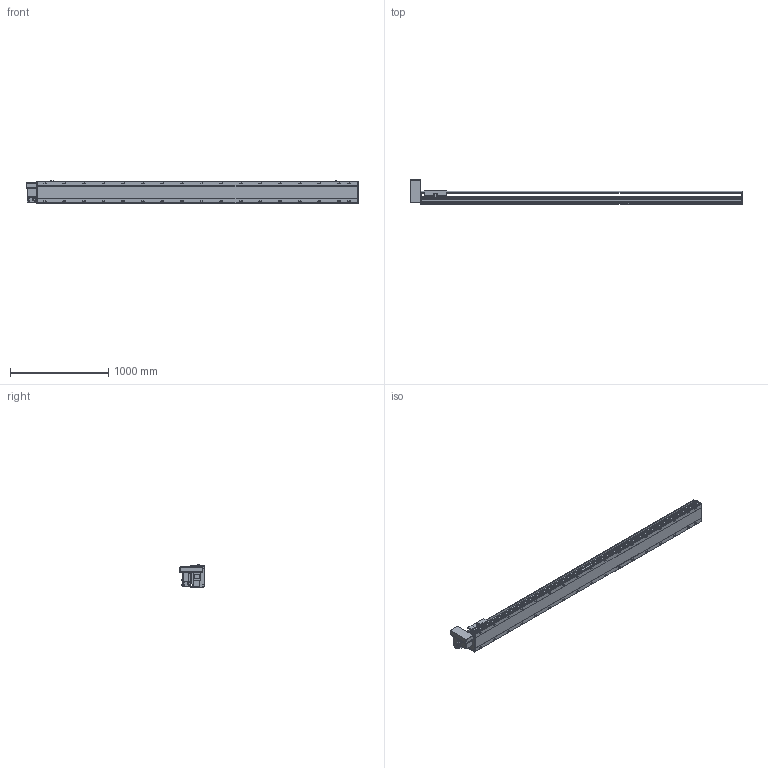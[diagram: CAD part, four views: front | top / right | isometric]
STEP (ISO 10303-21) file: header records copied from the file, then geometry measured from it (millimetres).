
FILE_DESCRIPTION(/* description */ ('STEP AP214'),/* implementation_level */ '2;1');
FILE_NAME(/* name */ 'PBS220-P40-S2900-RU-T75-C1-N(0)',/* time_stamp */ '2022-06-13T03:00:00+02:00',/* author */ ('License CC BY-ND 4.0'),/* organization */ ('CADENAS'),/* preprocessor_version */ 'ST-DEVELOPER v18.102',/* originating_system */ 'PARTsolutions',/* authorisation */ ' ');
FILE_SCHEMA (('AUTOMOTIVE_DESIGN {1 0 10303 214 3 1 1}'));
Length unit declared in the file: millimetre
Products named in the file (7): PBS220-P40-S2900-RU-T75-C1-N(0); PBS220_sensor; PBS220_plant; PBS220_sliser; T75-p1; PBS220T-RU_motors; PBS220-S2900()_body
Assembly tree (8 placements, depth 2):
  PBS220-P40-S2900-RU-T75-C1-N(0)
    PBS220_sensor  x3
    PBS220_plant
    PBS220_sliser
    T75-p1
    PBS220T-RU_motors
    PBS220-S2900()_body
Bounding box: 3384 x 247 x 238.5 mm (x, y, z)
Volume: 47042716.9 mm3; surface area: 4278694.6 mm2
Topology: 8 solids, 8 shells, 1022 faces, 2648 edges, 1720 vertices
Faces by surface type: plane 634, cylinder 330, cone 58
Full cylindrical faces by diameter (mm): 2.013 x4, 4.5 x14, 4.917 x4, 6 x7, 6.647 x8, 8 x10, 8.376 x34, 8.5 x34, 10 x6, 14 x34, 38 x2, 40 x1, 70 x1
Entity records: 28437 total; most frequent: CARTESIAN_POINT 5086, DIRECTION 4941, ORIENTED_EDGE 4430, EDGE_CURVE 2215, AXIS2_PLACEMENT_3D 1789, VERTEX_POINT 1560, LINE 1363, VECTOR 1363
